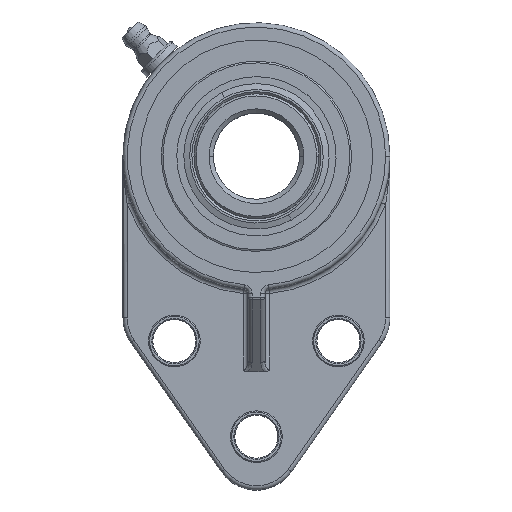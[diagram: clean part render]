
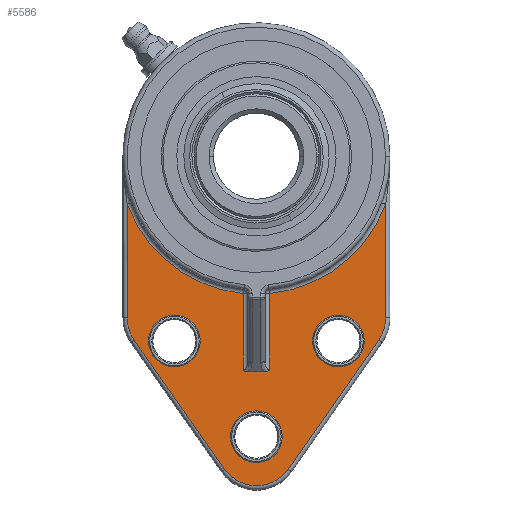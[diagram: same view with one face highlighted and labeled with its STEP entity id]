
A CAD part, top view. The second image highlights one B-rep face of the part: STEP entity #5586.
In plain terms, the highlighted planar face has unit normal (0, 0, 1).
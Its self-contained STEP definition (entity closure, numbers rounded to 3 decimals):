
#4250=CARTESIAN_POINT('Vertex',(-25.05,-42.9,12.)) ;
#4253=CARTESIAN_POINT('Axis2P3D Location',(-19.05,-42.9,12.)) ;
#4257=CARTESIAN_POINT('Vertex',(-13.05,-42.9,12.)) ;
#4277=CARTESIAN_POINT('Axis2P3D Location',(-19.05,-42.9,12.)) ;
#4307=CARTESIAN_POINT('Vertex',(13.05,-42.9,12.)) ;
#4310=CARTESIAN_POINT('Axis2P3D Location',(19.05,-42.9,12.)) ;
#4314=CARTESIAN_POINT('Vertex',(25.05,-42.9,12.)) ;
#4334=CARTESIAN_POINT('Axis2P3D Location',(19.05,-42.9,12.)) ;
#4364=CARTESIAN_POINT('Vertex',(-6.,-65.1,12.)) ;
#4367=CARTESIAN_POINT('Axis2P3D Location',(0.,-65.1,12.)) ;
#4371=CARTESIAN_POINT('Vertex',(6.,-65.1,12.)) ;
#4391=CARTESIAN_POINT('Axis2P3D Location',(0.,-65.1,12.)) ;
#4943=CARTESIAN_POINT('Vertex',(-30.,-37.509,12.)) ;
#4950=CARTESIAN_POINT('Vertex',(-28.372,-42.671,12.)) ;
#4953=CARTESIAN_POINT('Axis2P3D Location',(-21.,-37.509,12.)) ;
#4974=CARTESIAN_POINT('Vertex',(-7.372,-72.662,12.)) ;
#4977=CARTESIAN_POINT('Line Origine',(-18.266,-57.105,12.)) ;
#4998=CARTESIAN_POINT('Vertex',(7.372,-72.662,12.)) ;
#5001=CARTESIAN_POINT('Axis2P3D Location',(0.,-67.5,12.)) ;
#5022=CARTESIAN_POINT('Vertex',(28.372,-42.671,12.)) ;
#5025=CARTESIAN_POINT('Line Origine',(18.266,-57.105,12.)) ;
#5046=CARTESIAN_POINT('Vertex',(30.,-37.509,12.)) ;
#5049=CARTESIAN_POINT('Axis2P3D Location',(21.,-37.509,12.)) ;
#5066=CARTESIAN_POINT('Line Origine',(30.,-38.75,12.)) ;
#5070=CARTESIAN_POINT('Vertex',(30.,-11.136,12.)) ;
#5171=CARTESIAN_POINT('Vertex',(3.,-31.859,12.)) ;
#5174=CARTESIAN_POINT('Axis2P3D Location',(0.,0.,12.)) ;
#5234=CARTESIAN_POINT('Vertex',(3.,-49.636,12.)) ;
#5237=CARTESIAN_POINT('Line Origine',(3.,-42.155,12.)) ;
#5355=CARTESIAN_POINT('Vertex',(2.061,-50.,12.)) ;
#5359=CARTESIAN_POINT('Control Point',(2.061,-50.,12.)) ;
#5360=CARTESIAN_POINT('Control Point',(2.36,-50.,12.)) ;
#5361=CARTESIAN_POINT('Control Point',(2.637,-49.923,12.)) ;
#5362=CARTESIAN_POINT('Control Point',(2.845,-49.791,12.)) ;
#5363=CARTESIAN_POINT('Control Point',(3.,-49.636,12.)) ;
#5377=CARTESIAN_POINT('Line Origine',(-30.,-38.75,12.)) ;
#5381=CARTESIAN_POINT('Vertex',(-30.,-11.136,12.)) ;
#5410=CARTESIAN_POINT('Vertex',(-3.,-31.859,12.)) ;
#5450=CARTESIAN_POINT('Axis2P3D Location',(0.,0.,12.)) ;
#5525=CARTESIAN_POINT('Axis2P3D Location',(0.,0.,12.)) ;
#5531=CARTESIAN_POINT('Control Point',(-2.061,-50.,12.)) ;
#5532=CARTESIAN_POINT('Control Point',(-2.183,-50.,12.)) ;
#5533=CARTESIAN_POINT('Control Point',(-2.302,-49.988,12.)) ;
#5534=CARTESIAN_POINT('Control Point',(-2.415,-49.965,12.)) ;
#5535=CARTESIAN_POINT('Control Point',(-2.6,-49.908,12.)) ;
#5536=CARTESIAN_POINT('Control Point',(-2.759,-49.826,12.)) ;
#5537=CARTESIAN_POINT('Control Point',(-2.822,-49.786,12.)) ;
#5538=CARTESIAN_POINT('Control Point',(-2.895,-49.732,12.)) ;
#5539=CARTESIAN_POINT('Control Point',(-2.961,-49.674,12.)) ;
#5540=CARTESIAN_POINT('Control Point',(-2.974,-49.661,12.)) ;
#5541=CARTESIAN_POINT('Control Point',(-2.987,-49.649,12.)) ;
#5542=CARTESIAN_POINT('Control Point',(-3.,-49.636,12.)) ;
#5543=CARTESIAN_POINT('Vertex',(-3.,-49.636,12.)) ;
#5545=CARTESIAN_POINT('Vertex',(-2.061,-50.,12.)) ;
#5548=CARTESIAN_POINT('Line Origine',(-3.,-40.748,12.)) ;
#5553=CARTESIAN_POINT('Line Origine',(0.,-50.,12.)) ;
#4254=DIRECTION('Axis2P3D Direction',(0.,0.,1.)) ;
#4278=DIRECTION('Axis2P3D Direction',(0.,0.,1.)) ;
#4311=DIRECTION('Axis2P3D Direction',(0.,0.,1.)) ;
#4335=DIRECTION('Axis2P3D Direction',(0.,0.,1.)) ;
#4368=DIRECTION('Axis2P3D Direction',(0.,0.,1.)) ;
#4392=DIRECTION('Axis2P3D Direction',(0.,0.,1.)) ;
#4954=DIRECTION('Axis2P3D Direction',(0.,-0.,1.)) ;
#4978=DIRECTION('Vector Direction',(0.574,-0.819,0.)) ;
#5002=DIRECTION('Axis2P3D Direction',(0.,-0.,1.)) ;
#5026=DIRECTION('Vector Direction',(0.574,0.819,0.)) ;
#5050=DIRECTION('Axis2P3D Direction',(0.,0.,1.)) ;
#5067=DIRECTION('Vector Direction',(0.,1.,0.)) ;
#5175=DIRECTION('Axis2P3D Direction',(0.,0.,1.)) ;
#5238=DIRECTION('Vector Direction',(0.,1.,0.)) ;
#5378=DIRECTION('Vector Direction',(0.,1.,0.)) ;
#5451=DIRECTION('Axis2P3D Direction',(0.,-0.,1.)) ;
#5526=DIRECTION('Axis2P3D Direction',(0.,0.,1.)) ;
#5527=DIRECTION('Axis2P3D XDirection',(1.,0.,0.)) ;
#5549=DIRECTION('Vector Direction',(0.,1.,0.)) ;
#5554=DIRECTION('Vector Direction',(1.,0.,0.)) ;
#4255=AXIS2_PLACEMENT_3D('Circle Axis2P3D',#4253,#4254,$) ;
#4279=AXIS2_PLACEMENT_3D('Circle Axis2P3D',#4277,#4278,$) ;
#4312=AXIS2_PLACEMENT_3D('Circle Axis2P3D',#4310,#4311,$) ;
#4336=AXIS2_PLACEMENT_3D('Circle Axis2P3D',#4334,#4335,$) ;
#4369=AXIS2_PLACEMENT_3D('Circle Axis2P3D',#4367,#4368,$) ;
#4393=AXIS2_PLACEMENT_3D('Circle Axis2P3D',#4391,#4392,$) ;
#4955=AXIS2_PLACEMENT_3D('Circle Axis2P3D',#4953,#4954,$) ;
#5003=AXIS2_PLACEMENT_3D('Circle Axis2P3D',#5001,#5002,$) ;
#5051=AXIS2_PLACEMENT_3D('Circle Axis2P3D',#5049,#5050,$) ;
#5176=AXIS2_PLACEMENT_3D('Circle Axis2P3D',#5174,#5175,$) ;
#5452=AXIS2_PLACEMENT_3D('Circle Axis2P3D',#5450,#5451,$) ;
#5528=AXIS2_PLACEMENT_3D('Plane Axis2P3D',#5525,#5526,#5527) ;
#5559=ORIENTED_EDGE('',*,*,#5547,.F.) ;
#5560=ORIENTED_EDGE('',*,*,#5552,.F.) ;
#5561=ORIENTED_EDGE('',*,*,#5454,.T.) ;
#5562=ORIENTED_EDGE('',*,*,#5383,.T.) ;
#5563=ORIENTED_EDGE('',*,*,#4957,.T.) ;
#5564=ORIENTED_EDGE('',*,*,#4981,.T.) ;
#5565=ORIENTED_EDGE('',*,*,#5005,.T.) ;
#5566=ORIENTED_EDGE('',*,*,#5029,.T.) ;
#5567=ORIENTED_EDGE('',*,*,#5053,.T.) ;
#5568=ORIENTED_EDGE('',*,*,#5072,.T.) ;
#5569=ORIENTED_EDGE('',*,*,#5178,.T.) ;
#5570=ORIENTED_EDGE('',*,*,#5241,.T.) ;
#5571=ORIENTED_EDGE('',*,*,#5364,.F.) ;
#5572=ORIENTED_EDGE('',*,*,#5557,.T.) ;
#5575=ORIENTED_EDGE('',*,*,#4281,.F.) ;
#5576=ORIENTED_EDGE('',*,*,#4259,.F.) ;
#5579=ORIENTED_EDGE('',*,*,#4395,.F.) ;
#5580=ORIENTED_EDGE('',*,*,#4373,.F.) ;
#5583=ORIENTED_EDGE('',*,*,#4338,.F.) ;
#5584=ORIENTED_EDGE('',*,*,#4316,.F.) ;
#5577=FACE_BOUND('',#5574,.T.) ;
#5581=FACE_BOUND('',#5578,.T.) ;
#5585=FACE_BOUND('',#5582,.T.) ;
#4979=VECTOR('Line Direction',#4978,1.) ;
#5027=VECTOR('Line Direction',#5026,1.) ;
#5068=VECTOR('Line Direction',#5067,1.) ;
#5239=VECTOR('Line Direction',#5238,1.) ;
#5379=VECTOR('Line Direction',#5378,1.) ;
#5550=VECTOR('Line Direction',#5549,1.) ;
#5555=VECTOR('Line Direction',#5554,1.) ;
#5586=ADVANCED_FACE('PartBody',(#5573,#5577,#5581,#5585),#5529,.T.) ;
#5358=B_SPLINE_CURVE_WITH_KNOTS('',4,(#5359,#5360,#5361,#5362,#5363),.UNSPECIFIED.,.F.,.U.,(5,5),(0.,1.863),.UNSPECIFIED.) ;
#5530=B_SPLINE_CURVE_WITH_KNOTS('',5,(#5531,#5532,#5533,#5534,#5535,#5536,#5537,#5538,#5539,#5540,#5541,#5542),.UNSPECIFIED.,.F.,.U.,(6,3,3,6),(0.,0.952,1.672,1.863),.UNSPECIFIED.) ;
#4256=CIRCLE('generated circle',#4255,6.) ;
#4280=CIRCLE('generated circle',#4279,6.) ;
#4313=CIRCLE('generated circle',#4312,6.) ;
#4337=CIRCLE('generated circle',#4336,6.) ;
#4370=CIRCLE('generated circle',#4369,6.) ;
#4394=CIRCLE('generated circle',#4393,6.) ;
#4956=CIRCLE('generated circle',#4955,9.) ;
#5004=CIRCLE('generated circle',#5003,9.) ;
#5052=CIRCLE('generated circle',#5051,9.) ;
#5177=CIRCLE('generated circle',#5176,32.) ;
#5453=CIRCLE('generated circle',#5452,32.) ;
#4259=EDGE_CURVE('',#4251,#4258,#4256,.T.) ;
#4281=EDGE_CURVE('',#4258,#4251,#4280,.T.) ;
#4316=EDGE_CURVE('',#4308,#4315,#4313,.T.) ;
#4338=EDGE_CURVE('',#4315,#4308,#4337,.T.) ;
#4373=EDGE_CURVE('',#4365,#4372,#4370,.T.) ;
#4395=EDGE_CURVE('',#4372,#4365,#4394,.T.) ;
#4957=EDGE_CURVE('',#4944,#4951,#4956,.T.) ;
#4981=EDGE_CURVE('',#4951,#4975,#4980,.T.) ;
#5005=EDGE_CURVE('',#4975,#4999,#5004,.T.) ;
#5029=EDGE_CURVE('',#4999,#5023,#5028,.T.) ;
#5053=EDGE_CURVE('',#5023,#5047,#5052,.T.) ;
#5072=EDGE_CURVE('',#5047,#5071,#5069,.T.) ;
#5178=EDGE_CURVE('',#5071,#5172,#5177,.F.) ;
#5241=EDGE_CURVE('',#5172,#5235,#5240,.F.) ;
#5364=EDGE_CURVE('',#5356,#5235,#5358,.T.) ;
#5383=EDGE_CURVE('',#5382,#4944,#5380,.F.) ;
#5454=EDGE_CURVE('',#5411,#5382,#5453,.F.) ;
#5547=EDGE_CURVE('',#5544,#5546,#5530,.F.) ;
#5552=EDGE_CURVE('',#5411,#5544,#5551,.F.) ;
#5557=EDGE_CURVE('',#5356,#5546,#5556,.F.) ;
#5558=EDGE_LOOP('',(#5559,#5560,#5561,#5562,#5563,#5564,#5565,#5566,#5567,#5568,#5569,#5570,#5571,#5572)) ;
#5574=EDGE_LOOP('',(#5575,#5576)) ;
#5578=EDGE_LOOP('',(#5579,#5580)) ;
#5582=EDGE_LOOP('',(#5583,#5584)) ;
#5573=FACE_OUTER_BOUND('',#5558,.T.) ;
#4980=LINE('Line',#4977,#4979) ;
#5028=LINE('Line',#5025,#5027) ;
#5069=LINE('Line',#5066,#5068) ;
#5240=LINE('Line',#5237,#5239) ;
#5380=LINE('Line',#5377,#5379) ;
#5551=LINE('Line',#5548,#5550) ;
#5556=LINE('Line',#5553,#5555) ;
#5529=PLANE('',#5528) ;
#4251=VERTEX_POINT('',#4250) ;
#4258=VERTEX_POINT('',#4257) ;
#4308=VERTEX_POINT('',#4307) ;
#4315=VERTEX_POINT('',#4314) ;
#4365=VERTEX_POINT('',#4364) ;
#4372=VERTEX_POINT('',#4371) ;
#4944=VERTEX_POINT('',#4943) ;
#4951=VERTEX_POINT('',#4950) ;
#4975=VERTEX_POINT('',#4974) ;
#4999=VERTEX_POINT('',#4998) ;
#5023=VERTEX_POINT('',#5022) ;
#5047=VERTEX_POINT('',#5046) ;
#5071=VERTEX_POINT('',#5070) ;
#5172=VERTEX_POINT('',#5171) ;
#5235=VERTEX_POINT('',#5234) ;
#5356=VERTEX_POINT('',#5355) ;
#5382=VERTEX_POINT('',#5381) ;
#5411=VERTEX_POINT('',#5410) ;
#5544=VERTEX_POINT('',#5543) ;
#5546=VERTEX_POINT('',#5545) ;
